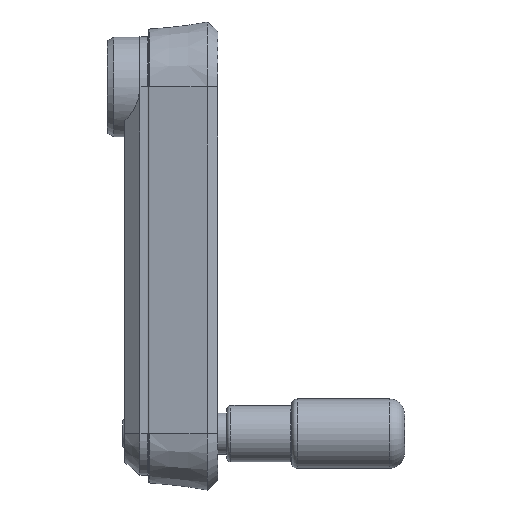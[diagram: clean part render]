
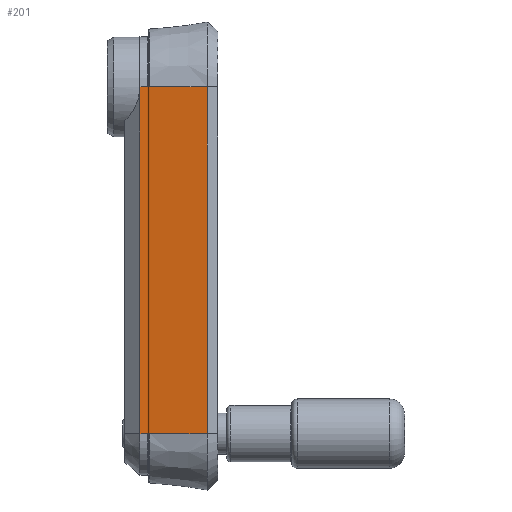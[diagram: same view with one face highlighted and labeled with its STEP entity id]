
A CAD part, top view. The second image highlights one B-rep face of the part: STEP entity #201.
In plain terms, the highlighted free-form (B-spline) face has degree [3, 1] with [12, 2] control points.
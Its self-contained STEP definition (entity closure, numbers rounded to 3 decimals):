
#201 = ADVANCED_FACE( '', ( #343 ), #344, .T. );
#343 = FACE_OUTER_BOUND( '', #603, .T. );
#344 = B_SPLINE_SURFACE_WITH_KNOTS( '', 3, 1, ( ( #604, #605 ), ( #606, #607 ), ( #608, #609 ), ( #610, #611 ), ( #612, #613 ), ( #614, #615 ), ( #616, #617 ), ( #618, #619 ), ( #620, #621 ), ( #622, #623 ), ( #624, #625 ), ( #626, #627 ) ), .UNSPECIFIED., .F., .F., .F., ( 4, 2, 2, 2, 2, 4 ), ( 2, 2 ), ( 0., 0.099, 0.127, 0.197, 0.222, 1. ), ( 0., 1. ), .UNSPECIFIED. );
#603 = EDGE_LOOP( '', ( #1029, #1030, #1031, #1032, #1033, #1034, #1035, #1036, #1037, #1038, #1039, #1040 ) );
#604 = CARTESIAN_POINT( '', ( -1.5, -80., 9.565 ) );
#605 = CARTESIAN_POINT( '', ( -1.5, 0., 11.594 ) );
#606 = CARTESIAN_POINT( '', ( -0.933, -80., 9.565 ) );
#607 = CARTESIAN_POINT( '', ( -0.933, 0., 11.594 ) );
#608 = CARTESIAN_POINT( '', ( -0.367, -80., 9.565 ) );
#609 = CARTESIAN_POINT( '', ( -0.367, 0., 11.594 ) );
#610 = CARTESIAN_POINT( '', ( 0.357, -80., 9.565 ) );
#611 = CARTESIAN_POINT( '', ( 0.357, 0., 11.594 ) );
#612 = CARTESIAN_POINT( '', ( 0.5, -80., 9.707 ) );
#613 = CARTESIAN_POINT( '', ( 0.5, 0., 11.738 ) );
#614 = CARTESIAN_POINT( '', ( 0.5, -80., 10.267 ) );
#615 = CARTESIAN_POINT( '', ( 0.5, 0., 12.291 ) );
#616 = CARTESIAN_POINT( '', ( 0.5, -80., 10.676 ) );
#617 = CARTESIAN_POINT( '', ( 0.5, 0., 12.681 ) );
#618 = CARTESIAN_POINT( '', ( 0.5, -80., 11.223 ) );
#619 = CARTESIAN_POINT( '', ( 0.5, 0., 13.222 ) );
#620 = CARTESIAN_POINT( '', ( 0.62, -80., 11.358 ) );
#621 = CARTESIAN_POINT( '', ( 0.62, 0., 13.358 ) );
#622 = CARTESIAN_POINT( '', ( 5.174, -80., 11.917 ) );
#623 = CARTESIAN_POINT( '', ( 5.174, 0., 13.917 ) );
#624 = CARTESIAN_POINT( '', ( 9.585, -80., 12.458 ) );
#625 = CARTESIAN_POINT( '', ( 9.584, 0., 14.458 ) );
#626 = CARTESIAN_POINT( '', ( 13.996, -80., 13. ) );
#627 = CARTESIAN_POINT( '', ( 13.995, 0., 15. ) );
#1029 = ORIENTED_EDGE( '', *, *, #1641, .T. );
#1030 = ORIENTED_EDGE( '', *, *, #1642, .F. );
#1031 = ORIENTED_EDGE( '', *, *, #1643, .F. );
#1032 = ORIENTED_EDGE( '', *, *, #1628, .F. );
#1033 = ORIENTED_EDGE( '', *, *, #1644, .F. );
#1034 = ORIENTED_EDGE( '', *, *, #1624, .F. );
#1035 = ORIENTED_EDGE( '', *, *, #1645, .F. );
#1036 = ORIENTED_EDGE( '', *, *, #1646, .F. );
#1037 = ORIENTED_EDGE( '', *, *, #1647, .F. );
#1038 = ORIENTED_EDGE( '', *, *, #1648, .F. );
#1039 = ORIENTED_EDGE( '', *, *, #1649, .T. );
#1040 = ORIENTED_EDGE( '', *, *, #1650, .F. );
#1624 = EDGE_CURVE( '', #1922, #1925, #1926, .T. );
#1628 = EDGE_CURVE( '', #1930, #1933, #1934, .T. );
#1641 = EDGE_CURVE( '', #1956, #1957, #1958, .T. );
#1642 = EDGE_CURVE( '', #1959, #1957, #1960, .T. );
#1643 = EDGE_CURVE( '', #1933, #1959, #1961, .T. );
#1644 = EDGE_CURVE( '', #1925, #1930, #1962, .T. );
#1645 = EDGE_CURVE( '', #1963, #1922, #1964, .T. );
#1646 = EDGE_CURVE( '', #1965, #1963, #1966, .T. );
#1647 = EDGE_CURVE( '', #1967, #1965, #1968, .T. );
#1648 = EDGE_CURVE( '', #1969, #1967, #1970, .T. );
#1649 = EDGE_CURVE( '', #1969, #1971, #1972, .T. );
#1650 = EDGE_CURVE( '', #1956, #1971, #1973, .T. );
#1922 = VERTEX_POINT( '', #2414 );
#1925 = VERTEX_POINT( '', #2418 );
#1926 = B_SPLINE_CURVE_WITH_KNOTS( '', 3, ( #2419, #2420, #2421, #2422 ), .UNSPECIFIED., .F., .F., ( 4, 4 ), ( 0., 1. ), .UNSPECIFIED. );
#1930 = VERTEX_POINT( '', #2429 );
#1933 = VERTEX_POINT( '', #2432 );
#1934 = B_SPLINE_CURVE_WITH_KNOTS( '', 1, ( #2433, #2434 ), .UNSPECIFIED., .F., .F., ( 2, 2 ), ( 0., 1. ), .UNSPECIFIED. );
#1956 = VERTEX_POINT( '', #2489 );
#1957 = VERTEX_POINT( '', #2490 );
#1958 = B_SPLINE_CURVE_WITH_KNOTS( '', 1, ( #2491, #2492 ), .UNSPECIFIED., .F., .F., ( 2, 2 ), ( 0., 1. ), .UNSPECIFIED. );
#1959 = VERTEX_POINT( '', #2493 );
#1960 = B_SPLINE_CURVE_WITH_KNOTS( '', 3, ( #2494, #2495, #2496, #2497 ), .UNSPECIFIED., .F., .F., ( 4, 4 ), ( 0., 1. ), .UNSPECIFIED. );
#1961 = B_SPLINE_CURVE_WITH_KNOTS( '', 3, ( #2498, #2499, #2500, #2501, #2502, #2503 ), .UNSPECIFIED., .F., .F., ( 4, 2, 4 ), ( 0., 0.5, 1. ), .UNSPECIFIED. );
#1962 = B_SPLINE_CURVE_WITH_KNOTS( '', 3, ( #2504, #2505, #2506, #2507, #2508, #2509 ), .UNSPECIFIED., .F., .F., ( 4, 2, 4 ), ( 0., 0.5, 1. ), .UNSPECIFIED. );
#1963 = VERTEX_POINT( '', #2510 );
#1964 = B_SPLINE_CURVE_WITH_KNOTS( '', 1, ( #2511, #2512 ), .UNSPECIFIED., .F., .F., ( 2, 2 ), ( 0., 1. ), .UNSPECIFIED. );
#1965 = VERTEX_POINT( '', #2513 );
#1966 = B_SPLINE_CURVE_WITH_KNOTS( '', 3, ( #2514, #2515, #2516, #2517 ), .UNSPECIFIED., .F., .F., ( 4, 4 ), ( 0., 1. ), .UNSPECIFIED. );
#1967 = VERTEX_POINT( '', #2518 );
#1968 = B_SPLINE_CURVE_WITH_KNOTS( '', 3, ( #2519, #2520, #2521, #2522, #2523, #2524 ), .UNSPECIFIED., .F., .F., ( 4, 2, 4 ), ( 0., 0.5, 1. ), .UNSPECIFIED. );
#1969 = VERTEX_POINT( '', #2525 );
#1970 = B_SPLINE_CURVE_WITH_KNOTS( '', 1, ( #2526, #2527 ), .UNSPECIFIED., .F., .F., ( 2, 2 ), ( 0., 1. ), .UNSPECIFIED. );
#1971 = VERTEX_POINT( '', #2528 );
#1972 = B_SPLINE_CURVE_WITH_KNOTS( '', 3, ( #2529, #2530, #2531, #2532 ), .UNSPECIFIED., .F., .F., ( 4, 4 ), ( 0.197, 0.222 ), .UNSPECIFIED. );
#1973 = B_SPLINE_CURVE_WITH_KNOTS( '', 3, ( #2533, #2534, #2535, #2536 ), .UNSPECIFIED., .F., .F., ( 4, 4 ), ( 0., 1. ), .UNSPECIFIED. );
#2414 = CARTESIAN_POINT( '', ( -1.5, 0., 11.594 ) );
#2418 = CARTESIAN_POINT( '', ( 0.2, 0., 11.594 ) );
#2419 = CARTESIAN_POINT( '', ( -1.5, 0., 11.594 ) );
#2420 = CARTESIAN_POINT( '', ( -0.933, 0., 11.594 ) );
#2421 = CARTESIAN_POINT( '', ( -0.367, 0., 11.594 ) );
#2422 = CARTESIAN_POINT( '', ( 0.2, 0., 11.594 ) );
#2429 = CARTESIAN_POINT( '', ( 0.5, 0., 11.894 ) );
#2432 = CARTESIAN_POINT( '', ( 0.5, 0., 13.078 ) );
#2433 = CARTESIAN_POINT( '', ( 0.5, 0., 11.894 ) );
#2434 = CARTESIAN_POINT( '', ( 0.5, 0., 13.078 ) );
#2489 = CARTESIAN_POINT( '', ( 13.996, -80., 13. ) );
#2490 = CARTESIAN_POINT( '', ( 13.995, 0., 15. ) );
#2491 = CARTESIAN_POINT( '', ( 13.996, -80., 13. ) );
#2492 = CARTESIAN_POINT( '', ( 13.995, 0., 15. ) );
#2493 = CARTESIAN_POINT( '', ( 0.763, 0., 13.375 ) );
#2494 = CARTESIAN_POINT( '', ( 0.763, 0., 13.375 ) );
#2495 = CARTESIAN_POINT( '', ( 5.174, 0., 13.917 ) );
#2496 = CARTESIAN_POINT( '', ( 9.584, 0., 14.458 ) );
#2497 = CARTESIAN_POINT( '', ( 13.995, 0., 15. ) );
#2498 = CARTESIAN_POINT( '', ( 0.5, 0., 13.078 ) );
#2499 = CARTESIAN_POINT( '', ( 0.5, 0., 13.15 ) );
#2500 = CARTESIAN_POINT( '', ( 0.527, 0., 13.222 ) );
#2501 = CARTESIAN_POINT( '', ( 0.623, 0., 13.331 ) );
#2502 = CARTESIAN_POINT( '', ( 0.692, 0., 13.367 ) );
#2503 = CARTESIAN_POINT( '', ( 0.763, 0., 13.375 ) );
#2504 = CARTESIAN_POINT( '', ( 0.2, 0., 11.594 ) );
#2505 = CARTESIAN_POINT( '', ( 0.279, 0., 11.594 ) );
#2506 = CARTESIAN_POINT( '', ( 0.357, 0., 11.626 ) );
#2507 = CARTESIAN_POINT( '', ( 0.468, 0., 11.737 ) );
#2508 = CARTESIAN_POINT( '', ( 0.5, 0., 11.815 ) );
#2509 = CARTESIAN_POINT( '', ( 0.5, 0., 11.894 ) );
#2510 = CARTESIAN_POINT( '', ( -1.5, -80., 9.565 ) );
#2511 = CARTESIAN_POINT( '', ( -1.5, -80., 9.565 ) );
#2512 = CARTESIAN_POINT( '', ( -1.5, 0., 11.594 ) );
#2513 = CARTESIAN_POINT( '', ( 0.2, -80., 9.565 ) );
#2514 = CARTESIAN_POINT( '', ( 0.2, -80., 9.565 ) );
#2515 = CARTESIAN_POINT( '', ( -0.367, -80., 9.565 ) );
#2516 = CARTESIAN_POINT( '', ( -0.933, -80., 9.565 ) );
#2517 = CARTESIAN_POINT( '', ( -1.5, -80., 9.565 ) );
#2518 = CARTESIAN_POINT( '', ( 0.5, -80., 9.865 ) );
#2519 = CARTESIAN_POINT( '', ( 0.5, -80., 9.865 ) );
#2520 = CARTESIAN_POINT( '', ( 0.5, -80., 9.786 ) );
#2521 = CARTESIAN_POINT( '', ( 0.468, -80., 9.708 ) );
#2522 = CARTESIAN_POINT( '', ( 0.357, -80., 9.597 ) );
#2523 = CARTESIAN_POINT( '', ( 0.279, -80., 9.565 ) );
#2524 = CARTESIAN_POINT( '', ( 0.2, -80., 9.565 ) );
#2525 = CARTESIAN_POINT( '', ( 0.5, -80., 11.077 ) );
#2526 = CARTESIAN_POINT( '', ( 0.5, -80., 11.077 ) );
#2527 = CARTESIAN_POINT( '', ( 0.5, -80., 9.865 ) );
#2528 = CARTESIAN_POINT( '', ( 0.763, -80., 11.375 ) );
#2529 = CARTESIAN_POINT( '', ( 0.5, -80., 11.077 ) );
#2530 = CARTESIAN_POINT( '', ( 0.5, -80., 11.223 ) );
#2531 = CARTESIAN_POINT( '', ( 0.62, -80., 11.358 ) );
#2532 = CARTESIAN_POINT( '', ( 0.763, -80., 11.375 ) );
#2533 = CARTESIAN_POINT( '', ( 13.996, -80., 13. ) );
#2534 = CARTESIAN_POINT( '', ( 9.585, -80., 12.458 ) );
#2535 = CARTESIAN_POINT( '', ( 5.174, -80., 11.917 ) );
#2536 = CARTESIAN_POINT( '', ( 0.763, -80., 11.375 ) );
